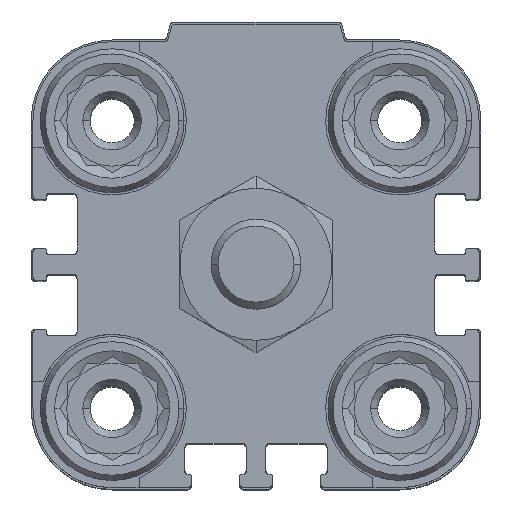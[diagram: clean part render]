
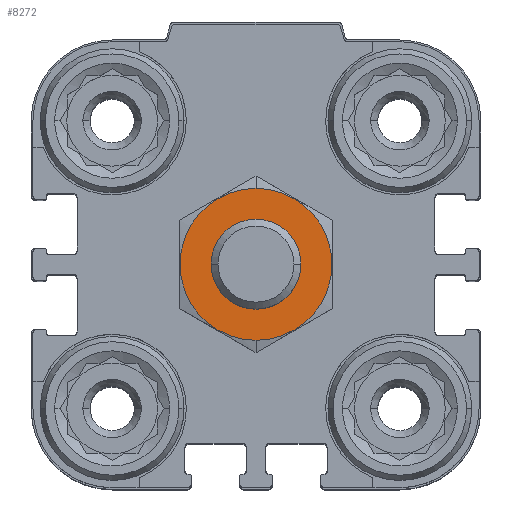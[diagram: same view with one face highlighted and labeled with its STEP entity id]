
A CAD part, top view. The second image highlights one B-rep face of the part: STEP entity #8272.
In plain terms, the highlighted planar face has unit normal (0, 0, 1).
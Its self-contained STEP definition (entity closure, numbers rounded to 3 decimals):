
#1058 = DIRECTION ( 'NONE',  ( 0., -1., 0. ) ) ;
#1276 = AXIS2_PLACEMENT_3D ( 'NONE', #20265, #18528, #4708 ) ;
#1537 = DIRECTION ( 'NONE',  ( 0., 0., -1. ) ) ;
#1967 = EDGE_CURVE ( 'NONE', #11194, #16861, #7034, .T. ) ;
#2998 = CIRCLE ( 'NONE', #10410, 5. ) ;
#3090 = CARTESIAN_POINT ( 'NONE',  ( 0., -8.45, 15. ) ) ;
#3511 = DIRECTION ( 'NONE',  ( 0., -1., 0. ) ) ;
#4597 = PLANE ( 'NONE',  #1276 ) ;
#4708 = DIRECTION ( 'NONE',  ( 0., -1., 0. ) ) ;
#5416 = CIRCLE ( 'NONE', #20207, 8.45 ) ;
#5759 = CARTESIAN_POINT ( 'NONE',  ( 0., 0., 15. ) ) ;
#6012 = CARTESIAN_POINT ( 'NONE',  ( 0., -5., 15. ) ) ;
#6034 = EDGE_LOOP ( 'NONE', ( #21531, #13524 ) ) ;
#6880 = DIRECTION ( 'NONE',  ( 0., 0., -1. ) ) ;
#7034 = CIRCLE ( 'NONE', #10736, 8.45 ) ;
#7281 = DIRECTION ( 'NONE',  ( 0., 0., -1. ) ) ;
#7330 = EDGE_LOOP ( 'NONE', ( #12785, #12779 ) ) ;
#8272 = ADVANCED_FACE ( 'NONE', ( #16697, #13206 ), #4597, .F. ) ;
#8370 = CIRCLE ( 'NONE', #22063, 5. ) ;
#9105 = EDGE_CURVE ( 'NONE', #16861, #11194, #5416, .T. ) ;
#9358 = DIRECTION ( 'NONE',  ( 0., -1., 0. ) ) ;
#10410 = AXIS2_PLACEMENT_3D ( 'NONE', #5759, #7281, #9358 ) ;
#10736 = AXIS2_PLACEMENT_3D ( 'NONE', #16984, #6880, #1058 ) ;
#11194 = VERTEX_POINT ( 'NONE', #3090 ) ;
#11716 = CARTESIAN_POINT ( 'NONE',  ( 0., 0., 15. ) ) ;
#11907 = VERTEX_POINT ( 'NONE', #18246 ) ;
#12779 = ORIENTED_EDGE ( 'NONE', *, *, #15221, .T. ) ;
#12785 = ORIENTED_EDGE ( 'NONE', *, *, #21620, .T. ) ;
#12823 = VERTEX_POINT ( 'NONE', #6012 ) ;
#13206 = FACE_BOUND ( 'NONE', #7330, .T. ) ;
#13524 = ORIENTED_EDGE ( 'NONE', *, *, #9105, .F. ) ;
#15221 = EDGE_CURVE ( 'NONE', #12823, #11907, #2998, .T. ) ;
#16697 = FACE_OUTER_BOUND ( 'NONE', #6034, .T. ) ;
#16729 = DIRECTION ( 'NONE',  ( 0., 0., -1. ) ) ;
#16861 = VERTEX_POINT ( 'NONE', #21731 ) ;
#16984 = CARTESIAN_POINT ( 'NONE',  ( 0., 0., 15. ) ) ;
#18246 = CARTESIAN_POINT ( 'NONE',  ( 0., 5., 15. ) ) ;
#18528 = DIRECTION ( 'NONE',  ( 0., 0., -1. ) ) ;
#20207 = AXIS2_PLACEMENT_3D ( 'NONE', #11716, #16729, #20294 ) ;
#20265 = CARTESIAN_POINT ( 'NONE',  ( 0., 0., 15. ) ) ;
#20294 = DIRECTION ( 'NONE',  ( 0., -1., 0. ) ) ;
#21024 = CARTESIAN_POINT ( 'NONE',  ( 0., 0., 15. ) ) ;
#21531 = ORIENTED_EDGE ( 'NONE', *, *, #1967, .F. ) ;
#21620 = EDGE_CURVE ( 'NONE', #11907, #12823, #8370, .T. ) ;
#21731 = CARTESIAN_POINT ( 'NONE',  ( 0., 8.45, 15. ) ) ;
#22063 = AXIS2_PLACEMENT_3D ( 'NONE', #21024, #1537, #3511 ) ;
